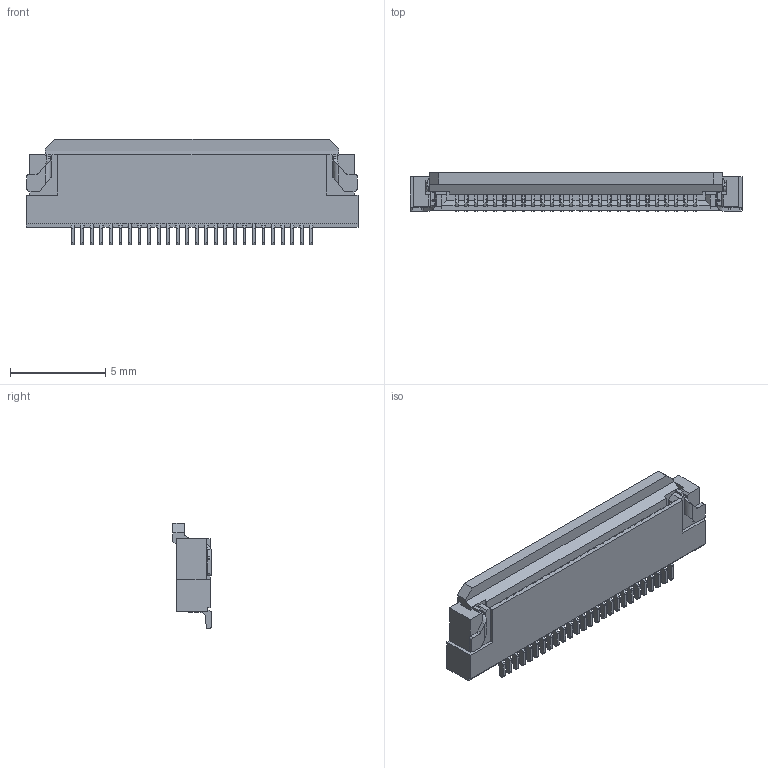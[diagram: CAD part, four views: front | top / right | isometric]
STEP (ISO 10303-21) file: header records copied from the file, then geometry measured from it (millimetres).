
FILE_DESCRIPTION((''),'2;1');
FILE_NAME('E-51502-060XX-001_ASM','2012-06-27T',('12114032'),(''),'PRO/ENGINEER BY PARAMETRIC TECHNOLOGY CORPORATION, 2009360','PRO/ENGINEER BY PARAMETRIC TECHNOLOGY CORPORATION, 2009360','');
FILE_SCHEMA(('CONFIG_CONTROL_DESIGN'));
Products named in the file (1): E-51502-060XX-001_ASM
Bounding box: 17.4 x 2 x 5.51 mm (x, y, z)
Volume: 84.2 mm3; surface area: 648.5 mm2
Topology: 2 solids, 2 shells, 1823 faces, 6694 edges, 4707 vertices
Faces by surface type: plane 1195, cylinder 618, bspline 6, torus 4
Entity records: 73480 total; most frequent: CARTESIAN_POINT 13628, ORIENTED_EDGE 13388, DIRECTION 12526, EDGE_CURVE 6694, VERTEX_POINT 4707, VECTOR 4436, LINE 4436, AXIS2_PLACEMENT_3D 4045
